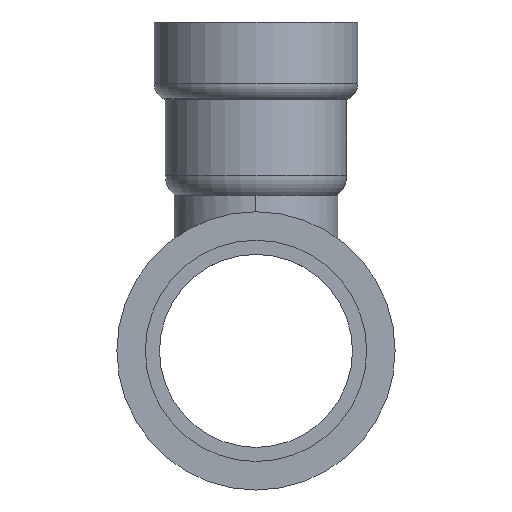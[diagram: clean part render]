
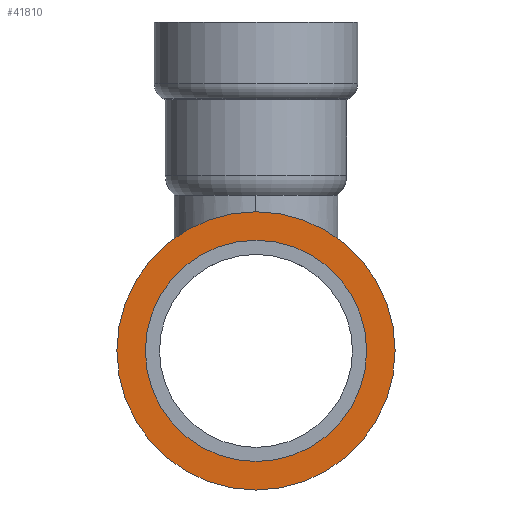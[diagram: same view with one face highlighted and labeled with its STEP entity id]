
A CAD part, left-side view. The second image highlights one B-rep face of the part: STEP entity #41810.
In plain terms, the highlighted planar face has unit normal (-1, 0, 0).
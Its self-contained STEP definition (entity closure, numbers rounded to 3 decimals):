
#40890=CARTESIAN_POINT('',(18.834,95.829,
0.));
#40900=VERTEX_POINT('',#40890);
#40980=CARTESIAN_POINT('',(18.834,33.829,
0.));
#40990=VERTEX_POINT('',#40980);
#41020=CARTESIAN_POINT('',(18.834,64.829,0.))
;
#41030=DIRECTION('',(1.,0.,0.));
#41040=DIRECTION('',(0.,-1.,0.));
#41050=AXIS2_PLACEMENT_3D('',#41020,#41030,#41040);
#41060=CIRCLE('',#41050,31.);
#41070=EDGE_CURVE('',#40900,#40990,#41060,.T.);
#41430=CARTESIAN_POINT('',(18.834,40.179,0.))
;
#41440=VERTEX_POINT('',#41430);
#41470=CARTESIAN_POINT('',(18.834,64.829,0.))
;
#41480=DIRECTION('',(1.,0.,0.));
#41490=DIRECTION('',(0.,1.,0.));
#41500=AXIS2_PLACEMENT_3D('',#41470,#41480,#41490);
#41510=CIRCLE('',#41500,24.65);
#41520=CARTESIAN_POINT('',(18.834,89.479,0.)
);
#41530=VERTEX_POINT('',#41520);
#41540=EDGE_CURVE('',#41440,#41530,#41510,.T.);
#41660=CARTESIAN_POINT('',(18.834,94.129,0.)
);
#41670=DIRECTION('',(1.,-0.,0.));
#41680=DIRECTION('',(0.,1.,0.));
#41690=AXIS2_PLACEMENT_3D('',#41660,#41670,#41680);
#41700=PLANE('',#41690);
#41710=EDGE_CURVE('',#41530,#41440,#41510,.T.);
#41720=ORIENTED_EDGE('',*,*,#41710,.T.);
#41730=ORIENTED_EDGE('',*,*,#41540,.T.);
#41740=EDGE_LOOP('',(#41730,#41720));
#41750=FACE_BOUND('',#41740,.T.);
#41760=EDGE_CURVE('',#40990,#40900,#41060,.T.);
#41770=ORIENTED_EDGE('',*,*,#41760,.F.);
#41780=ORIENTED_EDGE('',*,*,#41070,.F.);
#41790=EDGE_LOOP('',(#41780,#41770));
#41800=FACE_OUTER_BOUND('',#41790,.T.);
#41810=ADVANCED_FACE('',(#41750,#41800),#41700,.F.);
